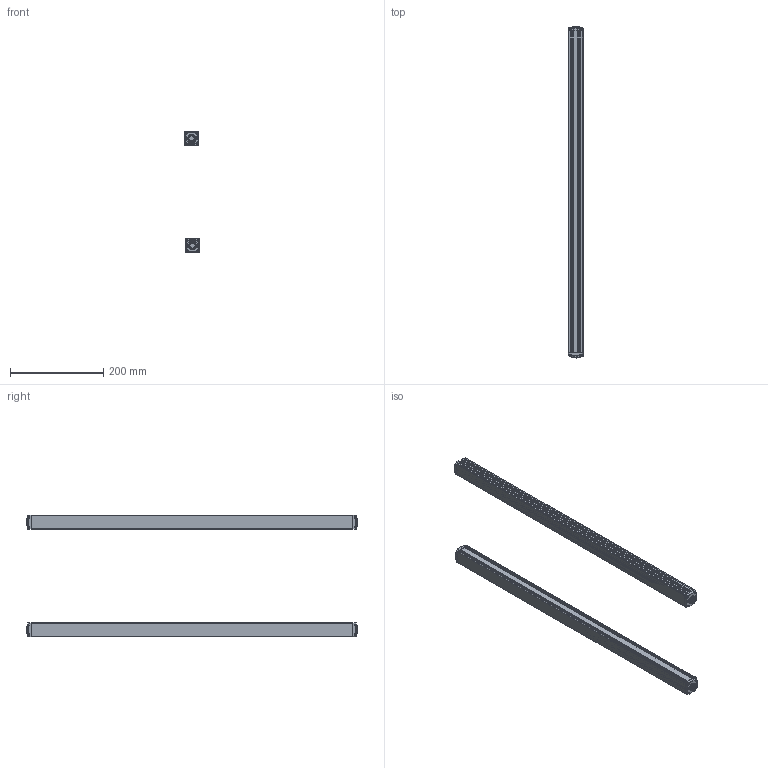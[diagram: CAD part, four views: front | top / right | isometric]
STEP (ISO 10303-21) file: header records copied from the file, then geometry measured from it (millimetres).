
FILE_DESCRIPTION (( 'STEP AP203' ), '1' );
FILE_NAME ('ZDA3420-690.STEP', '2022-12-22T07:50:31', ( 'User' ), ( 'China' ), 'SwSTEP 2.0', 'SolidWorks 2020', '' );
FILE_SCHEMA (( 'CONFIG_CONTROL_DESIGN' ));
Length unit declared in the file: millimetre
Products named in the file (5): 錨璃8 - 萵掛 (2); 錨璃1; 錨璃10; ZDA3420-690; 錨璃8
Assembly tree (8 placements, depth 2):
  ZDA3420-690
    錨璃1  x2
    錨璃8  x2
    錨璃8 - 萵掛 (2)  x2
    錨璃10  x2
Bounding box: 32.36 x 711.4 x 260.35 mm (x, y, z)
Volume: 441492.6 mm3; surface area: 467942.9 mm2
Topology: 8 solids, 8 shells, 1032 faces, 2690 edges, 1668 vertices
Faces by surface type: plane 464, cylinder 310, cone 120, bspline 58, torus 48, sphere 32
Entity records: 17901 total; most frequent: CARTESIAN_POINT 4731, ORIENTED_EDGE 2666, DIRECTION 2616, EDGE_CURVE 1333, AXIS2_PLACEMENT_3D 894, VERTEX_POINT 834, VECTOR 828, LINE 828
